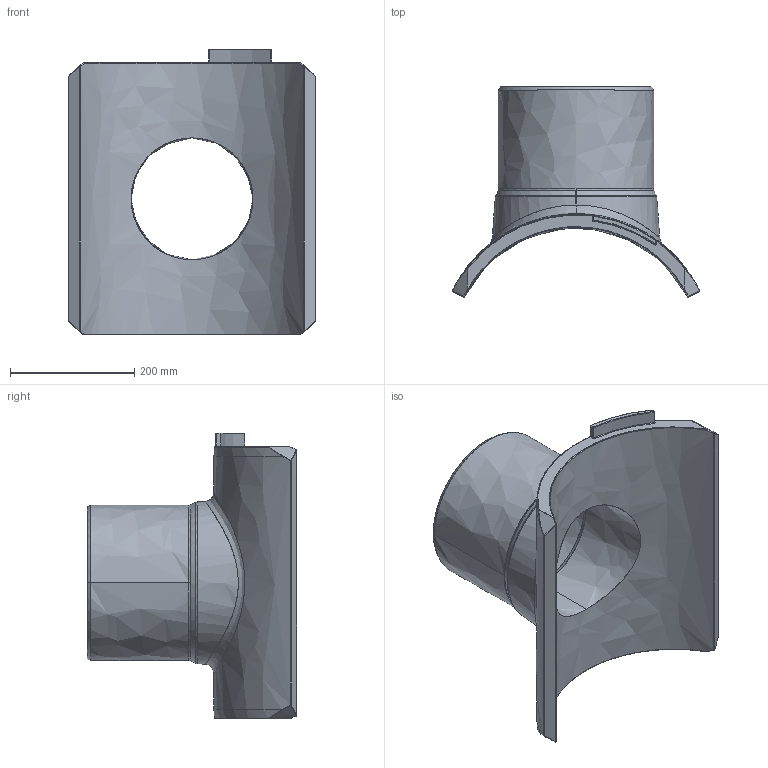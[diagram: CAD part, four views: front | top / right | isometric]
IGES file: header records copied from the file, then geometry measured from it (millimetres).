
Start section:  PTC IGES file: sa-uni_d400_250_01.igs
Global section: file name: sa-uni_d400_250_01.igs; native system: Creo Parametric by PTC Inc.; preprocessor: 2022124; author: mikulicp; organization: Unknown; date: 20240701.111151; units: millimetre
Bounding box: 397.99 x 337.63 x 460 mm (x, y, z)
Surface area: 706251.2 mm2 (no closed solid volume)
Topology: 0 solids, 0 shells, 241 faces, 1166 edges, 1166 vertices
Faces by surface type: bspline 241
